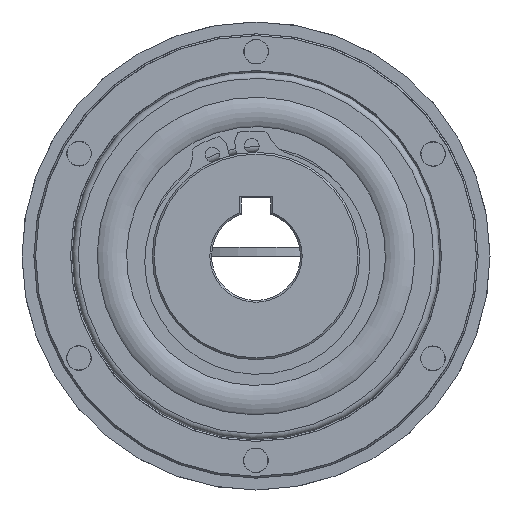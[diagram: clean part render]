
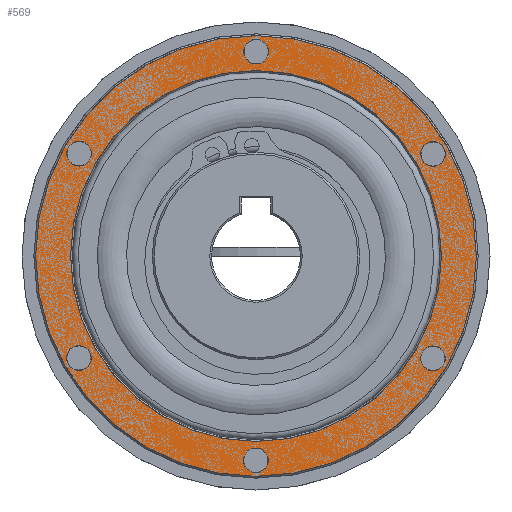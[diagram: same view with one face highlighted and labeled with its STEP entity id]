
A CAD part, left-side view. The second image highlights one B-rep face of the part: STEP entity #569.
In plain terms, the highlighted planar face has unit normal (-1, 0, 0).
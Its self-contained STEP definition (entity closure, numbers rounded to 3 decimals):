
#569 = ADVANCED_FACE( '', ( #936, #937, #938, #939, #940, #941, #942, #943 ), #944, .F. );
#936 = FACE_OUTER_BOUND( '', #1231, .T. );
#937 = FACE_BOUND( '', #1232, .T. );
#938 = FACE_BOUND( '', #1233, .T. );
#939 = FACE_BOUND( '', #1234, .T. );
#940 = FACE_BOUND( '', #1235, .T. );
#941 = FACE_BOUND( '', #1236, .T. );
#942 = FACE_BOUND( '', #1237, .T. );
#943 = FACE_BOUND( '', #1238, .T. );
#944 = PLANE( '', #1239 );
#1231 = EDGE_LOOP( '', ( #1642 ) );
#1232 = EDGE_LOOP( '', ( #1643 ) );
#1233 = EDGE_LOOP( '', ( #1644 ) );
#1234 = EDGE_LOOP( '', ( #1645 ) );
#1235 = EDGE_LOOP( '', ( #1646 ) );
#1236 = EDGE_LOOP( '', ( #1647 ) );
#1237 = EDGE_LOOP( '', ( #1648 ) );
#1238 = EDGE_LOOP( '', ( #1649 ) );
#1239 = AXIS2_PLACEMENT_3D( '', #1650, #1651, #1652 );
#1642 = ORIENTED_EDGE( '', *, *, #2029, .T. );
#1643 = ORIENTED_EDGE( '', *, *, #2033, .T. );
#1644 = ORIENTED_EDGE( '', *, *, #2034, .T. );
#1645 = ORIENTED_EDGE( '', *, *, #2035, .T. );
#1646 = ORIENTED_EDGE( '', *, *, #2036, .T. );
#1647 = ORIENTED_EDGE( '', *, *, #2037, .T. );
#1648 = ORIENTED_EDGE( '', *, *, #2038, .T. );
#1649 = ORIENTED_EDGE( '', *, *, #2039, .T. );
#1650 = CARTESIAN_POINT( '', ( -18.1, 37.5, 0. ) );
#1651 = DIRECTION( '', ( 1., 0., 0. ) );
#1652 = DIRECTION( '', ( 0., 1., 0. ) );
#2029 = EDGE_CURVE( '', #2265, #2265, #2266, .T. );
#2033 = EDGE_CURVE( '', #2273, #2273, #2274, .T. );
#2034 = EDGE_CURVE( '', #2275, #2275, #2276, .T. );
#2035 = EDGE_CURVE( '', #2277, #2277, #2278, .T. );
#2036 = EDGE_CURVE( '', #2279, #2279, #2280, .T. );
#2037 = EDGE_CURVE( '', #2281, #2281, #2282, .T. );
#2038 = EDGE_CURVE( '', #2283, #2283, #2284, .T. );
#2039 = EDGE_CURVE( '', #2285, #2285, #2286, .T. );
#2265 = VERTEX_POINT( '', #2763 );
#2266 = CIRCLE( '', #2764, 37.2 );
#2273 = VERTEX_POINT( '', #2771 );
#2274 = CIRCLE( '', #2772, 31.3 );
#2275 = VERTEX_POINT( '', #2773 );
#2276 = CIRCLE( '', #2774, 2.067 );
#2277 = VERTEX_POINT( '', #2775 );
#2278 = CIRCLE( '', #2776, 2.067 );
#2279 = VERTEX_POINT( '', #2777 );
#2280 = CIRCLE( '', #2778, 2.067 );
#2281 = VERTEX_POINT( '', #2779 );
#2282 = CIRCLE( '', #2780, 2.067 );
#2283 = VERTEX_POINT( '', #2781 );
#2284 = CIRCLE( '', #2782, 2.067 );
#2285 = VERTEX_POINT( '', #2783 );
#2286 = CIRCLE( '', #2784, 2.067 );
#2763 = CARTESIAN_POINT( '', ( -18.1, 0., -37.2 ) );
#2764 = AXIS2_PLACEMENT_3D( '', #2999, #3000, #3001 );
#2771 = CARTESIAN_POINT( '', ( -18.1, 0., -31.3 ) );
#2772 = AXIS2_PLACEMENT_3D( '', #3011, #3012, #3013 );
#2773 = CARTESIAN_POINT( '', ( -18.1, 31.668, 18.284 ) );
#2774 = AXIS2_PLACEMENT_3D( '', #3014, #3015, #3016 );
#2775 = CARTESIAN_POINT( '', ( -18.1, 31.668, -18.284 ) );
#2776 = AXIS2_PLACEMENT_3D( '', #3017, #3018, #3019 );
#2777 = CARTESIAN_POINT( '', ( -18.1, 0., -36.567 ) );
#2778 = AXIS2_PLACEMENT_3D( '', #3020, #3021, #3022 );
#2779 = CARTESIAN_POINT( '', ( -18.1, -31.668, -18.284 ) );
#2780 = AXIS2_PLACEMENT_3D( '', #3023, #3024, #3025 );
#2781 = CARTESIAN_POINT( '', ( -18.1, -31.668, 18.284 ) );
#2782 = AXIS2_PLACEMENT_3D( '', #3026, #3027, #3028 );
#2783 = CARTESIAN_POINT( '', ( -18.1, 0., 36.567 ) );
#2784 = AXIS2_PLACEMENT_3D( '', #3029, #3030, #3031 );
#2999 = CARTESIAN_POINT( '', ( -18.1, 0., 0. ) );
#3000 = DIRECTION( '', ( -1., 0., 0. ) );
#3001 = DIRECTION( '', ( 0., 0., -1. ) );
#3011 = CARTESIAN_POINT( '', ( -18.1, 0., 0. ) );
#3012 = DIRECTION( '', ( 1., 0., 0. ) );
#3013 = DIRECTION( '', ( 0., 0., -1. ) );
#3014 = CARTESIAN_POINT( '', ( -18.1, 29.878, 17.25 ) );
#3015 = DIRECTION( '', ( 1., 0., 0. ) );
#3016 = DIRECTION( '', ( 0., 0.866, 0.5 ) );
#3017 = CARTESIAN_POINT( '', ( -18.1, 29.878, -17.25 ) );
#3018 = DIRECTION( '', ( 1., 0., 0. ) );
#3019 = DIRECTION( '', ( 0., 0.866, -0.5 ) );
#3020 = CARTESIAN_POINT( '', ( -18.1, 0., -34.5 ) );
#3021 = DIRECTION( '', ( 1., 0., 0. ) );
#3022 = DIRECTION( '', ( 0., 0., -1. ) );
#3023 = CARTESIAN_POINT( '', ( -18.1, -29.878, -17.25 ) );
#3024 = DIRECTION( '', ( 1., 0., 0. ) );
#3025 = DIRECTION( '', ( 0., -0.866, -0.5 ) );
#3026 = CARTESIAN_POINT( '', ( -18.1, -29.878, 17.25 ) );
#3027 = DIRECTION( '', ( 1., 0., 0. ) );
#3028 = DIRECTION( '', ( 0., -0.866, 0.5 ) );
#3029 = CARTESIAN_POINT( '', ( -18.1, 0., 34.5 ) );
#3030 = DIRECTION( '', ( 1., 0., 0. ) );
#3031 = DIRECTION( '', ( 0., 0., 1. ) );
